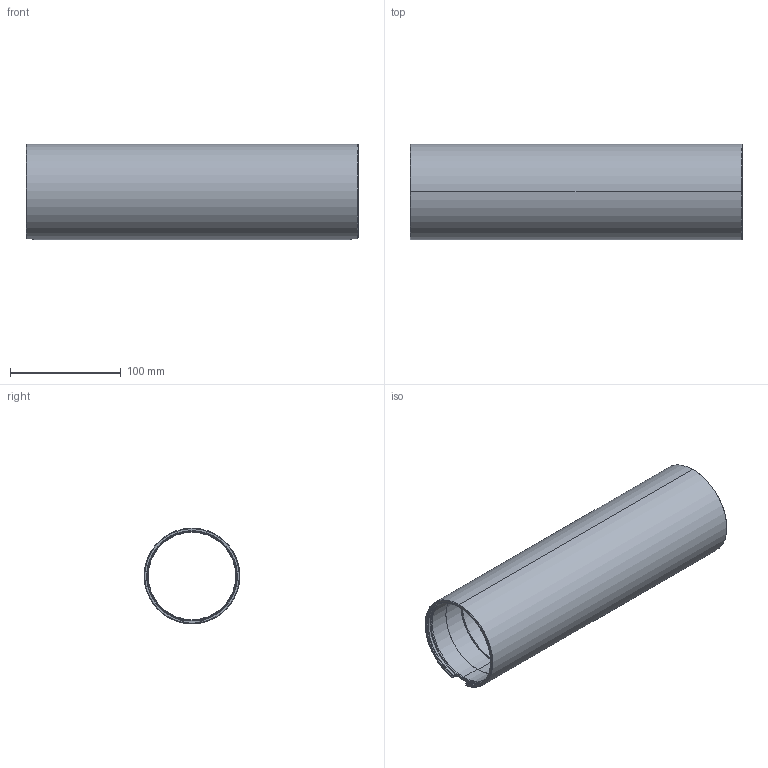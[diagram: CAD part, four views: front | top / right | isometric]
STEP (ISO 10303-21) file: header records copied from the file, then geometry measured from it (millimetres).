
FILE_DESCRIPTION (( 'STEP AP214' ), '1' );
FILE_NAME ('BR-100611-300_RevC.STEP', '2025-03-03T21:17:27', ( '' ), ( '' ), 'SwSTEP 2.0', 'SolidWorks 2024', '' );
FILE_SCHEMA (( 'AUTOMOTIVE_DESIGN' ));
Length unit declared in the file: millimetre
Products named in the file (1): BR-100611-300_RevC
Bounding box: 300 x 86.48 x 86.5 mm (x, y, z)
Volume: 265563.2 mm3; surface area: 159000.7 mm2
Topology: 1 solids, 1 shells, 96 faces, 244 edges, 152 vertices
Faces by surface type: cylinder 26, bspline 24, cone 18, plane 16, torus 12
Entity records: 5958 total; most frequent: CARTESIAN_POINT 3876, ORIENTED_EDGE 488, DIRECTION 346, EDGE_CURVE 244, VERTEX_POINT 152, AXIS2_PLACEMENT_3D 149, B_SPLINE_CURVE_WITH_KNOTS 116, EDGE_LOOP 100
